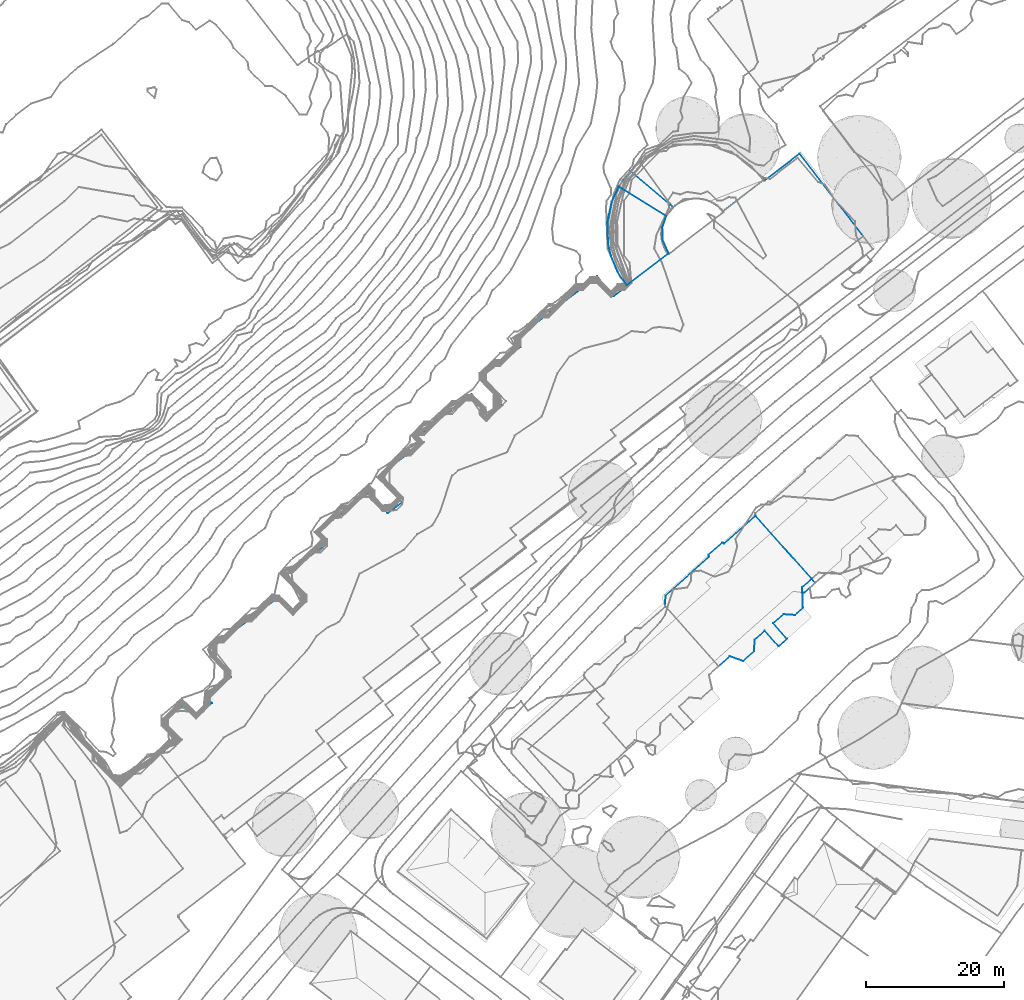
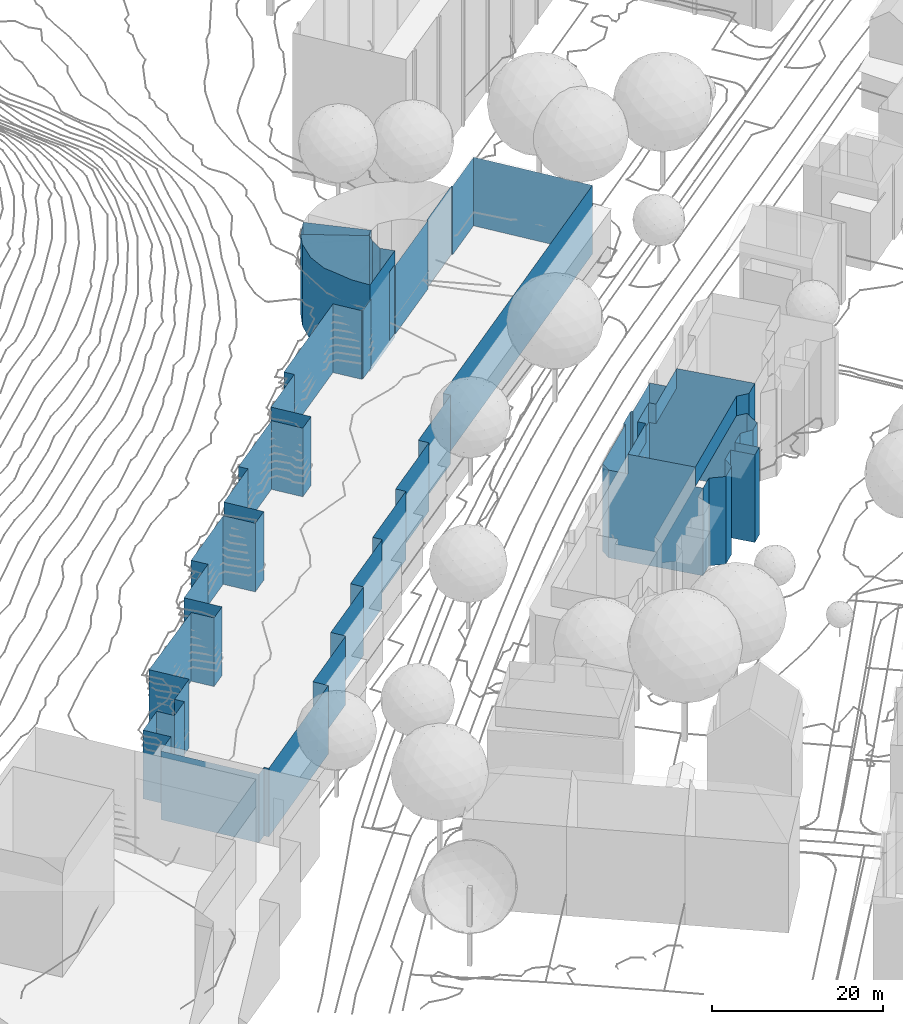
# Not in any storey, part 32 of 494: 4 walls.
"""IFC2X3 model written with IfcOpenShell, lengths in metres."""

import ifcopenshell
import ifcopenshell.guid

model = None  # the IFC model being written
_history = None  # IfcOwnerHistory: only IFC2X3 demands one
_inside = {}  # id of a spatial element -> (the spatial element, [elements in it])
_under = {}  # id of a project, library or spatial element -> (it, [spatial elements below it])
_declared = {}  # id of a project -> (the project, [libraries it declares])
_typed = {}  # id of a type object -> (the type object, [elements of that type])
_made_of = {}  # id of a material, layer set ... -> (it, [elements and type objects made of it])


def new_model(schema):
    """Start an empty IFC model of exactly this schema.

    Asked for "IFC4X3", IfcOpenShell would pick the latest addendum, in which some entities
    have other attributes; the version numbers below select the first issue.
    IFC2X3 requires an IfcOwnerHistory on every rooted entity: one is made here for all.
    """
    global model, _history
    if schema == "IFC4X3":
        model = ifcopenshell.file(schema_version=(4, 3, 0, 0))
    else:
        model = ifcopenshell.file(schema=schema)
    _inside.clear()
    _under.clear()
    _declared.clear()
    _typed.clear()
    _made_of.clear()
    _history = None
    if model.schema == "IFC2X3":
        org = make("IfcOrganization", Name="unknown")
        user = make(
            "IfcPersonAndOrganization",
            ThePerson=make("IfcPerson", FamilyName="unknown"),
            TheOrganization=org,
        )
        app = make(
            "IfcApplication",
            ApplicationDeveloper=org,
            Version="unknown",
            ApplicationFullName="unknown",
            ApplicationIdentifier="unknown",
        )
        _history = make(
            "IfcOwnerHistory",
            OwningUser=user,
            OwningApplication=app,
            ChangeAction="ADDED",
            CreationDate=0,
        )
    return model


def make(cls, **values):
    """One entity of the class cls with the attributes given. An attribute that is None is left unset."""
    return model.create_entity(
        cls, **{name: value for name, value in values.items() if value is not None}
    )


def rooted(cls, **values):
    """An entity with a GlobalId (a new one), such as an element, a storey or a relation."""
    return make(cls, GlobalId=ifcopenshell.guid.new(), OwnerHistory=_history, **values)


def si_unit(unit_type, name, prefix=None):
    """IfcSIUnit, for example si_unit("LENGTHUNIT", "METRE", prefix="MILLI")."""
    return make("IfcSIUnit", UnitType=unit_type, Prefix=prefix, Name=name)


def assignment(units):
    """IfcUnitAssignment: the units of a project."""
    return None if units is None else make("IfcUnitAssignment", Units=units)


def point(xyz):
    """IfcCartesianPoint."""
    return None if xyz is None else make("IfcCartesianPoint", Coordinates=xyz)


def direction(xyz):
    """IfcDirection."""
    return None if xyz is None else make("IfcDirection", DirectionRatios=xyz)


def frame(location, z_axis=None, x_axis=None):
    """IfcAxis2Placement3D, a coordinate frame: its origin and axes. An axis left out is left unset."""
    return make(
        "IfcAxis2Placement3D",
        Location=point(location),
        Axis=direction(z_axis),
        RefDirection=direction(x_axis),
    )


def origin_with_axes():
    """The frame at (0, 0, 0) with the z axis (0, 0, 1) and the x axis (1, 0, 0) written out."""
    return frame((0.0, 0.0, 0.0), z_axis=(0.0, 0.0, 1.0), x_axis=(1.0, 0.0, 0.0))


def place(relative_to, where):
    """IfcLocalPlacement: puts the frame where relative to a parent placement (None: the world)."""
    return make(
        "IfcLocalPlacement", PlacementRelTo=relative_to, RelativePlacement=where
    )


def context(
    kind, dimensions, precision=None, world=None, true_north=None, identifier=None
):
    """IfcGeometricRepresentationContext, for example the 3D "Model" context."""
    return make(
        "IfcGeometricRepresentationContext",
        ContextIdentifier=identifier,
        ContextType=kind,
        CoordinateSpaceDimension=dimensions,
        Precision=precision,
        WorldCoordinateSystem=world,
        TrueNorth=true_north,
    )


def subcontext(parent, identifier, kind, view, scale=None):
    """IfcGeometricRepresentationSubContext, for example "Body" below "Model"."""
    return make(
        "IfcGeometricRepresentationSubContext",
        ContextIdentifier=identifier,
        ContextType=kind,
        ParentContext=parent,
        TargetScale=scale,
        TargetView=view,
    )


def project(units=None, contexts=None):
    """IfcProject with its units and contexts."""
    return rooted(
        "IfcProject",
        Name="project",
        RepresentationContexts=contexts,
        UnitsInContext=assignment(units),
    )


def faces_of(points, faces, orient=None, outer=None):
    """IfcFace entities. A face is a list of loops; a loop is a list of indices into points, from 0.

    orient and outer hold one flag for each loop. By default every Orientation is true, the
    first loop of a face is its IfcFaceOuterBound and the others are IfcFaceBound.
    """
    made = []
    for i, loops in enumerate(faces):
        bounds = []
        for j, loop in enumerate(loops):
            is_outer = j == 0 if outer is None else outer[i][j]
            bounds.append(
                make(
                    "IfcFaceOuterBound" if is_outer else "IfcFaceBound",
                    Bound=make("IfcPolyLoop", Polygon=[points[k] for k in loop]),
                    Orientation=True if orient is None else orient[i][j],
                )
            )
        made.append(make("IfcFace", Bounds=bounds))
    return made


def faceted_brep(points, faces, orient=None, outer=None, voids=None):
    """IfcFacetedBrep: a solid bounded by flat faces; with voids (closed shells), ...WithVoids."""
    shared = [point(p) for p in points]
    hull = make("IfcClosedShell", CfsFaces=faces_of(shared, faces, orient, outer))
    if voids is None:
        return make("IfcFacetedBrep", Outer=hull)
    return make(
        "IfcFacetedBrepWithVoids",
        Outer=hull,
        Voids=[
            make(cls, CfsFaces=faces_of(shared, fs, o, b)) for cls, fs, o, b in voids
        ],
    )


def shape(context_of_items, identifier, shape_type, items):
    """IfcShapeRepresentation: the items that make up one representation, for example the "Body"."""
    return make(
        "IfcShapeRepresentation",
        ContextOfItems=context_of_items,
        RepresentationIdentifier=identifier,
        RepresentationType=shape_type,
        Items=items,
    )


def made_of(thing, what):
    """Note that an element or type object is made of a material, layer set ...; save() writes the relation."""
    if what is not None:
        _made_of.setdefault(what.id(), (what, []))[1].append(thing)
    return thing


def element(
    cls,
    number,
    at=None,
    inside=None,
    cuts=None,
    type_object=None,
    material=None,
    context=None,
    identifier="Body",
    shape_type=None,
    held_by="IfcProductDefinitionShape",
    body=None,
    shapes=None,
    **own,
):
    """One element of the class cls, such as IfcWall. Its Tag is "e" and its number.

    at: its placement. inside: the storey or other place that contains it. cuts: it is an
    opening in that element (IfcRelVoidsElement). A single representation is given by context,
    identifier, shape_type and body (its items); several are given by shapes. held_by: the class
    of the entity that holds the representations. save() writes the other relations.
    """
    e = rooted(cls, Tag="e%d" % number, ObjectPlacement=at, **own)
    if body is not None:
        shapes = [shape(context, identifier, shape_type, body)]
    if shapes is not None:
        e.Representation = make(held_by, Representations=shapes)
    if inside is not None:
        _inside.setdefault(inside.id(), (inside, []))[1].append(e)
    if cuts is not None:
        rooted(
            "IfcRelVoidsElement", RelatingBuildingElement=cuts, RelatedOpeningElement=e
        )
    if type_object is not None:
        _typed.setdefault(type_object.id(), (type_object, []))[1].append(e)
    return made_of(e, material)


def aggregate(whole, parts):
    """IfcRelAggregates: a whole, such as a stair, and the parts it consists of."""
    return rooted("IfcRelAggregates", RelatingObject=whole, RelatedObjects=parts)


def save(model, path):
    """Write the relations noted so far, then the file.

    IfcRelAggregates (storeys below a building ...), IfcRelContainedInSpatialStructure (elements
    in a storey), IfcRelDefinesByType, IfcRelAssociatesMaterial and IfcRelDeclares: one each for
    every whole, place, type object, material and project.
    """
    for whole, parts in _under.values():
        aggregate(whole, parts)
    for where, things in _inside.values():
        rooted(
            "IfcRelContainedInSpatialStructure",
            RelatedElements=things,
            RelatingStructure=where,
        )
    for kind, things in _typed.values():
        rooted("IfcRelDefinesByType", RelatedObjects=things, RelatingType=kind)
    for what, things in _made_of.values():
        rooted("IfcRelAssociatesMaterial", RelatedObjects=things, RelatingMaterial=what)
    for by, libraries in _declared.values():
        rooted("IfcRelDeclares", RelatingContext=by, RelatedDefinitions=libraries)
    model.write(path)


model = new_model("IFC2X3")

# Units and contexts
model_context = context("Model", 3, precision=1e-05, world=origin_with_axes())
body_context = subcontext(model_context, "Body", "Model", "MODEL_VIEW")
ifc_project = project(units=[si_unit("AREAUNIT", "SQUARE_METRE"), si_unit("LENGTHUNIT", "METRE")], contexts=[model_context])

# Walls
wall_1_placement = place(None, frame((352.5117320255, 77.5340160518, 499.5586), z_axis=(0.0, 0.0, 1.0), x_axis=(1.0, 0.0, 0.0)))
element("IfcWall", 1, at=wall_1_placement, Name="Wall 0", context=body_context, shape_type="Brep", body=[
    faceted_brep([(9.5549999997, 5.4375, 15.3595), (15.2990000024, 10.5361000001, 15.3595), (9.5549999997, 5.4375, 12.5588), (8.9560000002, 6.1123000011, 15.3595), (8.9560000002, 6.1123000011, 12.5588), (5.8819999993, 3.384800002, 15.3595), (5.8819999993, 3.384800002, 12.5588), (6.5600000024, 2.621100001, 15.3595), (6.5600000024, 2.621100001, 12.5588), (1.5899999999, -1.7901000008, 15.3595), (1.5899999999, -1.7901000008, 12.5588), (18.5270000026, 2.1182000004, 15.3595), (7.1150000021, -8.0126999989, 15.3595), (18.5270000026, 2.1182000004, 12.5588), (20.1009999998, 1.884800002, 0.095), (19.8509999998, 1.9219000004, 12.5588), (19.8509999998, 1.9219000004, 0.095), (20.1009999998, 1.884800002, 15.3595), (21.7280000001, 3.3291000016, 15.3595), (21.7280000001, 3.3291000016, 0.095), (8.5260000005, 9.0078000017, 12.5588), (13.0700000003, 13.0361000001, 12.5588), (8.5260000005, 9.0078000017, 0.0), (8.4470000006, 9.0976000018, 12.5588), (8.4470000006, 9.0976000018, 0.0), (8.2180000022, 9.1084000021, 12.5588), (8.2180000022, 9.1084000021, 0.0), (6.3170000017, 7.4219000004, 12.5588), (6.3170000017, 7.4219000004, 0.0), (6.3060000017, 7.2012000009, 12.5588), (6.3060000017, 7.2012000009, 0.0), (6.3859999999, 7.1103000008, 12.5588), (6.3859999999, 7.1103000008, 0.0), (0.0549999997, 1.4990000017, 12.5588), (0.0549999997, 1.4990000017, 0.0), (0.0, 0.0, 12.5588), (0.0, 0.0, 0.0), (9.3599999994, -7.2949000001, 12.5588), (7.7479999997, -8.7256000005, 12.5588), (9.3599999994, -7.2949000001, 0.0), (11.2569999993, -7.9970999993, 12.5588), (11.2569999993, -7.9970999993, 0.0), (12.8520000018, -6.5830000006, 12.5588), (12.8520000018, -6.5830000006, 0.0), (12.9550000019, -4.8944999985, 12.5588), (12.9550000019, -4.8944999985, 0.0), (14.4210000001, -3.5956999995, 12.5588), (14.4210000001, -3.5956999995, 0.0), (16.4270000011, -5.8603999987, 12.5588), (16.4270000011, -5.8603999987, 0.0), (17.6390000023, -4.7841999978, 12.5588), (17.6390000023, -4.7841999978, 0.0), (15.6400000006, -2.5165999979, 12.5588), (15.6400000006, -2.5165999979, 0.0), (17.1070000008, -1.2168000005, 12.5588), (17.1070000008, -1.2168000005, 0.0), (18.7750000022, -1.3368999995, 12.5588), (18.7750000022, -1.3368999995, 0.0), (19.9660000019, -0.2831999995, 12.5588), (19.9660000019, -0.2831999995, 0.0), (19.9140000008, -0.2256000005, 12.5588), (19.9140000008, -0.2256000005, 0.0), (19.8289999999, 2.6865000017, 0.0), (19.8289999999, 2.6865000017, 0.095), (21.2080000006, 3.9121000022, 0.095), (21.2080000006, 3.9121000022, 0.0), (13.0700000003, 13.0361000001, 0.0), (15.2990000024, 10.5371000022, 12.5588), (7.7479999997, -8.7256000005, 0.0), (7.1150000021, -8.0126999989, 12.5588)], [[[0, 1, 2]], [[3, 0, 4]], [[5, 3, 6]], [[7, 5, 8]], [[9, 8, 10]], [[11, 12, 13]], [[14, 15, 16]], [[15, 14, 17]], [[15, 11, 13]], [[11, 15, 17]], [[18, 17, 19]], [[20, 21, 22]], [[23, 20, 24]], [[25, 23, 26]], [[27, 25, 28]], [[29, 27, 30]], [[31, 29, 32]], [[33, 31, 34]], [[35, 33, 36]], [[37, 38, 39]], [[40, 37, 41]], [[42, 40, 43]], [[44, 42, 45]], [[46, 44, 47]], [[48, 46, 49]], [[50, 48, 51]], [[52, 50, 53]], [[54, 52, 55]], [[56, 54, 57]], [[58, 56, 59]], [[60, 58, 61]], [[62, 63, 16]], [[16, 60, 61]], [[60, 16, 15]], [[16, 61, 62]], [[64, 63, 65]], [[66, 67, 64]], [[67, 66, 21]], [[1, 18, 67]], [[64, 18, 19]], [[18, 64, 67]], [[64, 65, 66]], [[10, 68, 69]], [[69, 68, 38]], [[69, 12, 10]], [[35, 36, 10]], [[1, 67, 2]], [[0, 2, 4]], [[3, 4, 6]], [[5, 6, 8]], [[7, 8, 9]], [[12, 69, 13]], [[17, 14, 19]], [[21, 66, 22]], [[20, 22, 24]], [[23, 24, 26]], [[25, 26, 28]], [[27, 28, 30]], [[29, 30, 32]], [[31, 32, 34]], [[33, 34, 36]], [[38, 68, 39]], [[37, 39, 41]], [[40, 41, 43]], [[42, 43, 45]], [[44, 45, 47]], [[46, 47, 49]], [[48, 49, 51]], [[50, 51, 53]], [[52, 53, 55]], [[54, 55, 57]], [[56, 57, 59]], [[58, 59, 61]], [[63, 62, 65]], [[36, 68, 10]], [[12, 9, 10]]]),
])
wall_2_placement = place(None, frame((287.111732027, 46.2742160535, 500.3625), z_axis=(0.0, 0.0, 1.0), x_axis=(1.0, 0.0, 0.0)))
element("IfcWall", 2, at=wall_2_placement, Name="Wall 4", context=body_context, shape_type="Brep", body=[
    faceted_brep([(79.8079999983, 92.7793000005, 10.0761), (84.8759999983, 96.6719000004, 10.0761), (79.8079999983, 92.7793000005, 0.246), (79.7149999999, 92.9023999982, 10.0761), (79.7149999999, 92.9023999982, 0.246), (73.7399999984, 88.3037, 10.0761), (73.7399999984, 88.3037, 0.246), (73.8330000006, 88.1933999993, 10.0761), (73.8330000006, 88.1933999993, 0.246), (65.881000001, 82.0907999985, 10.0761), (65.881000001, 82.0907999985, 0.246), (65.805999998, 82.1972999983, 10.0761), (65.805999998, 82.1972999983, 0.246), (59.8550000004, 77.6171999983, 10.0761), (59.8550000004, 77.6171999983, 0.246), (59.9290000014, 77.5224999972, 10.0761), (59.9290000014, 77.5224999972, 0.246), (57.987999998, 76.0321999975, 10.0761), (57.987999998, 76.0321999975, 0.246), (57.9169999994, 76.125, 10.0761), (57.9169999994, 76.125, 0.246), (57.8099999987, 76.0429999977, 10.0761), (57.8099999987, 76.0429999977, 0.246), (55.5920000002, 78.9257999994, 10.0761), (55.5920000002, 78.9257999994, 0.2461), (48.7690000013, 73.6845999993, 10.0761), (48.7690000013, 73.6845999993, 0.2461), (43.6530000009, 69.753899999, 10.0761), (43.6530000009, 69.753899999, 0.2461), (44.305999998, 68.9091999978, 10.0761), (44.305999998, 68.9091999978, 0.2461), (44.4690000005, 68.7021999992, 10.0761), (44.4690000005, 68.7021999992, 0.2461), (38.7520000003, 64.3017999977, 10.0761), (38.7520000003, 64.3017999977, 0.2461), (41.8640000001, 60.2568999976, 10.0761), (41.8640000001, 60.2568999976, 0.246), (39.8319999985, 58.6923999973, 10.0761), (39.8319999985, 58.6923999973, 0.246), (37.4019999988, 61.8515999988, 10.0761), (37.4019999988, 61.8515999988, 0.2461), (29.3720000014, 55.6719000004, 10.0761), (29.3720000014, 55.6719000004, 0.2461), (30.1050000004, 54.7196999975, 10.0761), (30.1050000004, 54.7196999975, 0.2461), (24.2609999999, 50.2216999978, 10.0761), (24.2609999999, 50.2216999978, 0.2461), (27.3409999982, 46.2196999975, 10.0761), (27.3409999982, 46.2196999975, 0.246), (25.2809999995, 44.6347999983, 10.0761), (25.2809999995, 44.6347999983, 0.246), (22.7939999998, 47.8671999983, 10.0761), (22.7939999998, 47.8671999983, 0.246), (14.9800000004, 41.8544999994, 10.0761), (14.9800000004, 41.8544999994, 0.2461), (16.2939999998, 40.1464999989, 10.0761), (16.2939999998, 40.1464999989, 0.246), (10.425999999, 35.6308999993, 10.0761), (10.425999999, 35.6308999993, 0.246), (13.373999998, 31.8007999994, 10.0761), (13.373999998, 31.8007999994, 0.246), (11.4160000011, 30.2949000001, 10.0761), (11.4160000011, 30.2949000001, 0.246), (11.3370000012, 30.4052999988, 10.0761), (11.3370000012, 30.4052999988, 0.246), (9.6420000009, 32.5976999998, 10.0761), (9.6420000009, 32.5976999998, 0.246), (-0.4759999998, 24.9521999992, 10.0761), (-0.4759999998, 24.9521999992, 0.246), (2.631000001, 20.9150999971, 10.0761), (2.631000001, 20.9150999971, 0.246), (-0.9030000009, 18.1963, 10.0761), (-0.9030000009, 18.1963, 0.246), (-0.1440000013, 17.2118999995, 10.0761), (-0.1440000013, 17.2118999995, 0.246), (-2.5910000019, 15.3271999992, 10.0761), (-2.5910000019, 15.3271999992, 0.246), (-3.9640000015, 17.1112999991, 10.0761), (-3.9640000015, 17.1112999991, 0.246), (-7.251000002, 14.5810999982, 10.0761), (-7.251000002, 14.5810999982, 0.246), (-5.1009999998, 11.7870999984, 10.0761), (-5.1009999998, 11.7870999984, 0.246), (-7.5949999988, 9.8671999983, 10.0761), (-7.5949999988, 9.8671999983, 0.246), (0.0, 0.0, 10.0761), (0.0, 0.0, 0.246), (1.2320000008, 0.9492000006, 10.0761), (1.2320000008, 0.9492000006, 0.246), (1.6050000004, 0.4657999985, 10.0761), (1.6050000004, 0.4657999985, 0.246), (16.1149999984, 11.6327999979, 10.0761), (16.1149999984, 11.6327999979, 0.246), (14.9120000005, 13.1963, 10.0761), (14.9120000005, 13.1963, 0.246), (22.9389999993, 19.3740999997, 10.0761), (22.9389999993, 19.373999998, 0.246), (21.7800000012, 20.8798999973, 10.0761), (21.7800000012, 20.8798999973, 0.246), (29.7670000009, 27.0273999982, 10.0761), (29.7670000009, 27.0273999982, 0.246), (28.7509999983, 28.3476999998, 10.0761), (28.7509999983, 28.3476999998, 0.246), (36.5020000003, 34.3154000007, 10.0761), (36.5020000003, 34.3154000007, 0.246), (35.7699999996, 35.2655999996, 10.0761), (35.7699999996, 35.2655999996, 0.246), (43.8249999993, 41.4657999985, 10.0761), (43.8249999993, 41.4657999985, 0.246), (43.0359999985, 42.4872999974, 10.0761), (43.0359999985, 42.4872999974, 0.246), (51.1259999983, 48.7148999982, 10.0761), (51.1259999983, 48.7148999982, 0.246), (50.3110000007, 49.7714999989, 10.0761), (50.3110000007, 49.7714999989, 0.246), (58.2199999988, 55.8594000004, 10.0761), (58.2199999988, 55.8594000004, 0.246), (57.6119999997, 56.6493999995, 10.0761), (57.6119999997, 56.6493999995, 0.246), (94.0659999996, 84.7060999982, 10.0761), (94.0659999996, 84.7060999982, 0.246), (84.8759999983, 96.6719000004, 0.246)], [[[0, 1, 2]], [[3, 0, 4]], [[5, 3, 6]], [[7, 5, 8]], [[9, 7, 10]], [[11, 9, 12]], [[13, 11, 14]], [[15, 13, 16]], [[17, 15, 18]], [[19, 17, 20]], [[21, 19, 22]], [[23, 21, 24]], [[25, 23, 26]], [[27, 25, 28]], [[29, 27, 30]], [[31, 29, 32]], [[33, 31, 34]], [[35, 33, 36]], [[37, 35, 38]], [[39, 37, 40]], [[41, 39, 42]], [[43, 41, 44]], [[45, 43, 46]], [[47, 45, 48]], [[49, 47, 50]], [[51, 49, 52]], [[53, 51, 54]], [[55, 53, 56]], [[57, 55, 58]], [[59, 57, 60]], [[61, 59, 62]], [[63, 61, 64]], [[65, 63, 66]], [[67, 65, 68]], [[69, 67, 70]], [[71, 69, 72]], [[73, 71, 74]], [[75, 73, 76]], [[77, 75, 78]], [[79, 77, 80]], [[81, 79, 82]], [[83, 81, 84]], [[85, 83, 86]], [[87, 85, 88]], [[89, 87, 90]], [[91, 89, 92]], [[93, 91, 94]], [[95, 93, 96]], [[97, 95, 98]], [[99, 97, 100]], [[101, 99, 102]], [[103, 101, 104]], [[105, 103, 106]], [[107, 105, 108]], [[109, 107, 110]], [[111, 109, 112]], [[113, 111, 114]], [[115, 113, 116]], [[117, 115, 118]], [[119, 117, 120]], [[1, 119, 121]], [[1, 121, 2]], [[0, 2, 4]], [[3, 4, 6]], [[5, 6, 8]], [[7, 8, 10]], [[9, 10, 12]], [[11, 12, 14]], [[13, 14, 16]], [[15, 16, 18]], [[17, 18, 20]], [[19, 20, 22]], [[21, 22, 24]], [[23, 24, 26]], [[25, 26, 28]], [[27, 28, 30]], [[29, 30, 32]], [[31, 32, 34]], [[33, 34, 36]], [[35, 36, 38]], [[37, 38, 40]], [[39, 40, 42]], [[41, 42, 44]], [[43, 44, 46]], [[45, 46, 48]], [[47, 48, 50]], [[49, 50, 52]], [[51, 52, 54]], [[53, 54, 56]], [[55, 56, 58]], [[57, 58, 60]], [[59, 60, 62]], [[61, 62, 64]], [[63, 64, 66]], [[65, 66, 68]], [[67, 68, 70]], [[69, 70, 72]], [[71, 72, 74]], [[73, 74, 76]], [[75, 76, 78]], [[77, 78, 80]], [[79, 80, 82]], [[81, 82, 84]], [[83, 84, 86]], [[85, 86, 88]], [[87, 88, 90]], [[89, 90, 92]], [[91, 92, 94]], [[93, 94, 96]], [[95, 96, 98]], [[97, 98, 100]], [[99, 100, 102]], [[101, 102, 104]], [[103, 104, 106]], [[105, 106, 108]], [[107, 108, 110]], [[109, 110, 112]], [[111, 112, 114]], [[113, 114, 116]], [[115, 116, 118]], [[117, 118, 120]], [[119, 120, 121]]]),
])
wall_3_placement = place(None, frame((287.111732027, 46.2742160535, 500.3625), z_axis=(0.0, 0.0, 1.0), x_axis=(1.0, 0.0, 0.0)))
element("IfcWall", 3, at=wall_3_placement, Name="Wall 7", context=body_context, shape_type="Brep", body=[
    faceted_brep([(58.6970000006, 91.8827999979, 11.102), (60.3469999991, 94.1474999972, 10.877), (58.6970000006, 91.8827999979, -0.3589), (65.5130000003, 87.6270000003, 11.102), (65.5130000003, 87.6270000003, -0.3589), (65.6440000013, 87.8515999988, -0.3589), (65.6440000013, 87.8515999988, 11.05), (65.5219999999, 87.6425999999, 11.101), (65.5219999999, 87.6425999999, -0.3589), (65.8969999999, 88.2099999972, -0.3589), (65.8969999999, 88.2099999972, 10.956), (66.180999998, 88.5449000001, 10.861), (66.180999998, 88.5449000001, -0.3589), (66.4919999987, 88.8534999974, -0.3589), (66.4919999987, 88.8534999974, 10.765), (66.5249999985, 88.8808999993, 3.8037), (66.5249999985, 88.8808999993, 10.756), (66.5080000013, 88.8662, 10.761), (66.5139999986, 88.8710999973, 2.4158), (66.5029999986, 88.8622999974, 2.4188), (66.5350000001, 88.8886999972, 10.753), (66.5350000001, 88.8886999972, -0.3589), (60.3469999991, 94.1474999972, -0.3589), (65.557, 87.5995999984, 11.102), (65.557, 87.5995999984, -0.3589)], [[[0, 1, 2]], [[3, 0, 4]], [[5, 6, 7]], [[7, 8, 5]], [[5, 9, 10]], [[5, 10, 6]], [[11, 9, 12]], [[11, 10, 9]], [[13, 14, 12]], [[11, 12, 14]], [[15, 16, 17]], [[18, 17, 19]], [[15, 20, 16]], [[15, 18, 21]], [[21, 18, 13]], [[17, 13, 19]], [[19, 13, 18]], [[1, 20, 22]], [[23, 3, 24]], [[8, 7, 23]], [[24, 8, 23]], [[1, 22, 2]], [[0, 2, 4]], [[15, 17, 18]], [[21, 20, 15]], [[14, 13, 17]], [[20, 21, 22]], [[3, 4, 24]]]),
])
wall_4_placement = place(None, frame((287.111732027, 46.2742160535, 500.3625), z_axis=(0.0, 0.0, 1.0), x_axis=(1.0, 0.0, 0.0)))
element("IfcWall", 4, at=wall_4_placement, Name="Wall 9", context=body_context, shape_type="Brep", body=[
    faceted_brep([(58.5159999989, 79.6083999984, 12.0879), (57.5599999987, 81.8847999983, 12.0879), (58.5159999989, 79.6083999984, -0.3589), (57.1569999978, 83.7168000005, 11.75), (57.5599999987, 81.8847999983, -0.3589), (65.0009999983, 85.9745999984, 11.528), (65.0410000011, 84.2001999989, 11.528), (65.0009999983, 85.9745999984, -0.3589), (65.8959999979, 82.2675999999, -0.3589), (65.0410000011, 84.2001999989, -0.3589), (65.8959999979, 82.2675999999, 12.0879), (65.805999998, 82.1983000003, 12.0879), (59.8660000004, 77.623999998, 12.0879), (59.8660000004, 77.623999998, -0.3589), (65.805999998, 82.1983000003, -0.3589), (65.557, 87.5995999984, 11.102), (65.557, 87.5995999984, -0.3589), (65.5130000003, 87.6270000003, 11.102), (65.5130000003, 87.6270000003, -0.3589), (58.6970000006, 91.8827999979, 11.102), (58.6970000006, 91.8827999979, -0.3589), (57.682, 89.7196999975, 11.353), (57.682, 89.7196999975, -0.3589), (57.0460000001, 86.6904999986, 11.528), (57.0460000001, 86.6904999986, -0.3589), (57.1569999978, 83.7168000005, -0.3589)], [[[0, 1, 2]], [[1, 3, 4]], [[5, 6, 7]], [[6, 8, 9]], [[10, 11, 8]], [[12, 0, 13]], [[11, 12, 14]], [[15, 7, 16]], [[17, 15, 18]], [[19, 17, 20]], [[21, 19, 22]], [[23, 21, 24]], [[3, 23, 25]], [[1, 4, 2]], [[3, 25, 4]], [[6, 9, 7]], [[10, 8, 6]], [[11, 14, 8]], [[0, 2, 13]], [[12, 13, 14]], [[5, 7, 15]], [[15, 16, 18]], [[17, 18, 20]], [[19, 20, 22]], [[21, 22, 24]], [[23, 24, 25]]]),
])

save(model, "model.ifc")
